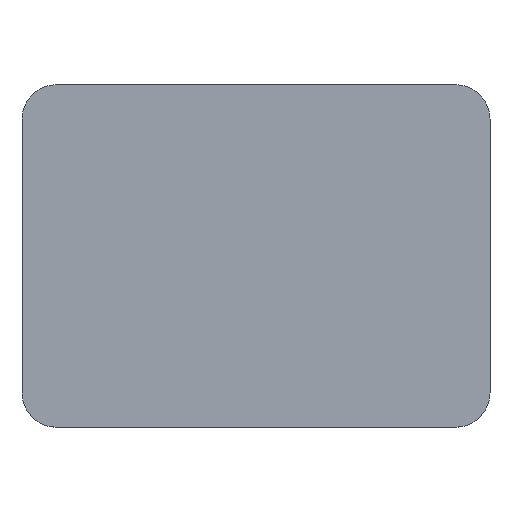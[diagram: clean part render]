
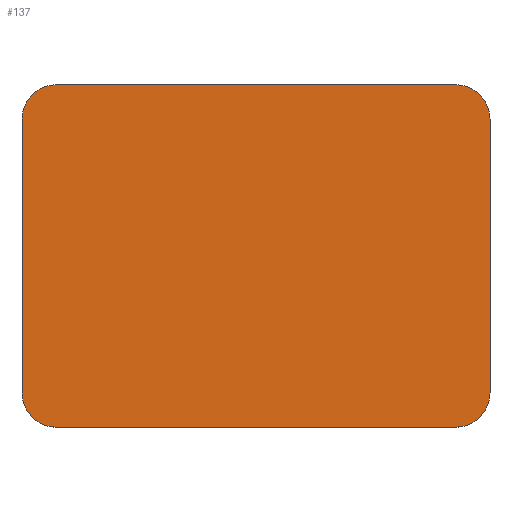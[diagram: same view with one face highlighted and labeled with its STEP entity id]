
A CAD part, top view. The second image highlights one B-rep face of the part: STEP entity #137.
In plain terms, the highlighted planar face has unit normal (0, 0, 1).
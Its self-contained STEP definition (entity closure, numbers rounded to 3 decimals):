
#21 = EDGE_CURVE('',#22,#24,#26,.T.);
#22 = VERTEX_POINT('',#23);
#23 = CARTESIAN_POINT('',(-41.,-24.,1.5));
#24 = VERTEX_POINT('',#25);
#25 = CARTESIAN_POINT('',(-41.,24.,1.5));
#26 = SURFACE_CURVE('',#27,(#31,#43),.PCURVE_S1.);
#27 = LINE('',#28,#29);
#28 = CARTESIAN_POINT('',(-41.,-30.,1.5));
#29 = VECTOR('',#30,1.);
#30 = DIRECTION('',(0.,1.,0.));
#31 = PCURVE('',#32,#37);
#32 = PLANE('',#33);
#33 = AXIS2_PLACEMENT_3D('',#34,#35,#36);
#34 = CARTESIAN_POINT('',(-41.,-30.,-1.5));
#35 = DIRECTION('',(1.,0.,0.));
#36 = DIRECTION('',(0.,0.,1.));
#37 = DEFINITIONAL_REPRESENTATION('',(#38),#42);
#38 = LINE('',#39,#40);
#39 = CARTESIAN_POINT('',(3.,0.));
#40 = VECTOR('',#41,1.);
#41 = DIRECTION('',(0.,-1.));
#42 = ( GEOMETRIC_REPRESENTATION_CONTEXT(2) 
PARAMETRIC_REPRESENTATION_CONTEXT() REPRESENTATION_CONTEXT('2D SPACE',''
  ) );
#43 = PCURVE('',#44,#49);
#44 = PLANE('',#45);
#45 = AXIS2_PLACEMENT_3D('',#46,#47,#48);
#46 = CARTESIAN_POINT('',(-41.,-30.,1.5));
#47 = DIRECTION('',(0.,0.,1.));
#48 = DIRECTION('',(1.,0.,0.));
#49 = DEFINITIONAL_REPRESENTATION('',(#50),#54);
#50 = LINE('',#51,#52);
#51 = CARTESIAN_POINT('',(0.,0.));
#52 = VECTOR('',#53,1.);
#53 = DIRECTION('',(0.,1.));
#54 = ( GEOMETRIC_REPRESENTATION_CONTEXT(2) 
PARAMETRIC_REPRESENTATION_CONTEXT() REPRESENTATION_CONTEXT('2D SPACE',''
  ) );
#72 = CYLINDRICAL_SURFACE('',#73,6.);
#73 = AXIS2_PLACEMENT_3D('',#74,#75,#76);
#74 = CARTESIAN_POINT('',(-35.,-24.,-1.5));
#75 = DIRECTION('',(0.,0.,1.));
#76 = DIRECTION('',(-1.,-0.,0.));
#126 = CYLINDRICAL_SURFACE('',#127,6.);
#127 = AXIS2_PLACEMENT_3D('',#128,#129,#130);
#128 = CARTESIAN_POINT('',(-35.,24.,-1.5));
#129 = DIRECTION('',(0.,0.,1.));
#130 = DIRECTION('',(-1.,-0.,0.));
#137 = ADVANCED_FACE('',(#138),#44,.T.);
#138 = FACE_BOUND('',#139,.T.);
#139 = EDGE_LOOP('',(#140,#141,#165,#193,#226,#254,#283,#311));
#140 = ORIENTED_EDGE('',*,*,#21,.F.);
#141 = ORIENTED_EDGE('',*,*,#142,.T.);
#142 = EDGE_CURVE('',#22,#143,#145,.T.);
#143 = VERTEX_POINT('',#144);
#144 = CARTESIAN_POINT('',(-35.,-30.,1.5));
#145 = SURFACE_CURVE('',#146,(#151,#158),.PCURVE_S1.);
#146 = CIRCLE('',#147,6.);
#147 = AXIS2_PLACEMENT_3D('',#148,#149,#150);
#148 = CARTESIAN_POINT('',(-35.,-24.,1.5));
#149 = DIRECTION('',(0.,0.,1.));
#150 = DIRECTION('',(0.,-1.,0.));
#151 = PCURVE('',#44,#152);
#152 = DEFINITIONAL_REPRESENTATION('',(#153),#157);
#153 = CIRCLE('',#154,6.);
#154 = AXIS2_PLACEMENT_2D('',#155,#156);
#155 = CARTESIAN_POINT('',(6.,6.));
#156 = DIRECTION('',(0.,-1.));
#157 = ( GEOMETRIC_REPRESENTATION_CONTEXT(2) 
PARAMETRIC_REPRESENTATION_CONTEXT() REPRESENTATION_CONTEXT('2D SPACE',''
  ) );
#158 = PCURVE('',#72,#159);
#159 = DEFINITIONAL_REPRESENTATION('',(#160),#164);
#160 = LINE('',#161,#162);
#161 = CARTESIAN_POINT('',(-4.712,3.));
#162 = VECTOR('',#163,1.);
#163 = DIRECTION('',(1.,0.));
#164 = ( GEOMETRIC_REPRESENTATION_CONTEXT(2) 
PARAMETRIC_REPRESENTATION_CONTEXT() REPRESENTATION_CONTEXT('2D SPACE',''
  ) );
#165 = ORIENTED_EDGE('',*,*,#166,.T.);
#166 = EDGE_CURVE('',#143,#167,#169,.T.);
#167 = VERTEX_POINT('',#168);
#168 = CARTESIAN_POINT('',(35.,-30.,1.5));
#169 = SURFACE_CURVE('',#170,(#174,#181),.PCURVE_S1.);
#170 = LINE('',#171,#172);
#171 = CARTESIAN_POINT('',(-41.,-30.,1.5));
#172 = VECTOR('',#173,1.);
#173 = DIRECTION('',(1.,0.,0.));
#174 = PCURVE('',#44,#175);
#175 = DEFINITIONAL_REPRESENTATION('',(#176),#180);
#176 = LINE('',#177,#178);
#177 = CARTESIAN_POINT('',(0.,0.));
#178 = VECTOR('',#179,1.);
#179 = DIRECTION('',(1.,0.));
#180 = ( GEOMETRIC_REPRESENTATION_CONTEXT(2) 
PARAMETRIC_REPRESENTATION_CONTEXT() REPRESENTATION_CONTEXT('2D SPACE',''
  ) );
#181 = PCURVE('',#182,#187);
#182 = PLANE('',#183);
#183 = AXIS2_PLACEMENT_3D('',#184,#185,#186);
#184 = CARTESIAN_POINT('',(-41.,-30.,-1.5));
#185 = DIRECTION('',(0.,1.,0.));
#186 = DIRECTION('',(0.,0.,1.));
#187 = DEFINITIONAL_REPRESENTATION('',(#188),#192);
#188 = LINE('',#189,#190);
#189 = CARTESIAN_POINT('',(3.,0.));
#190 = VECTOR('',#191,1.);
#191 = DIRECTION('',(0.,1.));
#192 = ( GEOMETRIC_REPRESENTATION_CONTEXT(2) 
PARAMETRIC_REPRESENTATION_CONTEXT() REPRESENTATION_CONTEXT('2D SPACE',''
  ) );
#193 = ORIENTED_EDGE('',*,*,#194,.F.);
#194 = EDGE_CURVE('',#195,#167,#197,.T.);
#195 = VERTEX_POINT('',#196);
#196 = CARTESIAN_POINT('',(41.,-24.,1.5));
#197 = SURFACE_CURVE('',#198,(#203,#214),.PCURVE_S1.);
#198 = CIRCLE('',#199,6.);
#199 = AXIS2_PLACEMENT_3D('',#200,#201,#202);
#200 = CARTESIAN_POINT('',(35.,-24.,1.5));
#201 = DIRECTION('',(-0.,-0.,-1.));
#202 = DIRECTION('',(0.,-1.,0.));
#203 = PCURVE('',#44,#204);
#204 = DEFINITIONAL_REPRESENTATION('',(#205),#213);
#205 = ( BOUNDED_CURVE() B_SPLINE_CURVE(2,(#206,#207,#208,#209,#210,#211
,#212),.UNSPECIFIED.,.T.,.F.) B_SPLINE_CURVE_WITH_KNOTS((1,2,2,2,2,1),(
    -2.094,0.,2.094,4.189,6.283,
8.378),.UNSPECIFIED.) CURVE() GEOMETRIC_REPRESENTATION_ITEM() 
RATIONAL_B_SPLINE_CURVE((1.,0.5,1.,0.5,1.,0.5,1.)) REPRESENTATION_ITEM(
  '') );
#206 = CARTESIAN_POINT('',(76.,0.));
#207 = CARTESIAN_POINT('',(65.608,0.));
#208 = CARTESIAN_POINT('',(70.804,9.));
#209 = CARTESIAN_POINT('',(76.,18.));
#210 = CARTESIAN_POINT('',(81.196,9.));
#211 = CARTESIAN_POINT('',(86.392,0.));
#212 = CARTESIAN_POINT('',(76.,0.));
#213 = ( GEOMETRIC_REPRESENTATION_CONTEXT(2) 
PARAMETRIC_REPRESENTATION_CONTEXT() REPRESENTATION_CONTEXT('2D SPACE',''
  ) );
#214 = PCURVE('',#215,#220);
#215 = CYLINDRICAL_SURFACE('',#216,6.);
#216 = AXIS2_PLACEMENT_3D('',#217,#218,#219);
#217 = CARTESIAN_POINT('',(35.,-24.,-1.5));
#218 = DIRECTION('',(0.,0.,1.));
#219 = DIRECTION('',(1.,0.,-0.));
#220 = DEFINITIONAL_REPRESENTATION('',(#221),#225);
#221 = LINE('',#222,#223);
#222 = CARTESIAN_POINT('',(4.712,3.));
#223 = VECTOR('',#224,1.);
#224 = DIRECTION('',(-1.,0.));
#225 = ( GEOMETRIC_REPRESENTATION_CONTEXT(2) 
PARAMETRIC_REPRESENTATION_CONTEXT() REPRESENTATION_CONTEXT('2D SPACE',''
  ) );
#226 = ORIENTED_EDGE('',*,*,#227,.T.);
#227 = EDGE_CURVE('',#195,#228,#230,.T.);
#228 = VERTEX_POINT('',#229);
#229 = CARTESIAN_POINT('',(41.,24.,1.5));
#230 = SURFACE_CURVE('',#231,(#235,#242),.PCURVE_S1.);
#231 = LINE('',#232,#233);
#232 = CARTESIAN_POINT('',(41.,-30.,1.5));
#233 = VECTOR('',#234,1.);
#234 = DIRECTION('',(0.,1.,0.));
#235 = PCURVE('',#44,#236);
#236 = DEFINITIONAL_REPRESENTATION('',(#237),#241);
#237 = LINE('',#238,#239);
#238 = CARTESIAN_POINT('',(82.,0.));
#239 = VECTOR('',#240,1.);
#240 = DIRECTION('',(0.,1.));
#241 = ( GEOMETRIC_REPRESENTATION_CONTEXT(2) 
PARAMETRIC_REPRESENTATION_CONTEXT() REPRESENTATION_CONTEXT('2D SPACE',''
  ) );
#242 = PCURVE('',#243,#248);
#243 = PLANE('',#244);
#244 = AXIS2_PLACEMENT_3D('',#245,#246,#247);
#245 = CARTESIAN_POINT('',(41.,-30.,-1.5));
#246 = DIRECTION('',(1.,0.,0.));
#247 = DIRECTION('',(0.,0.,1.));
#248 = DEFINITIONAL_REPRESENTATION('',(#249),#253);
#249 = LINE('',#250,#251);
#250 = CARTESIAN_POINT('',(3.,0.));
#251 = VECTOR('',#252,1.);
#252 = DIRECTION('',(0.,-1.));
#253 = ( GEOMETRIC_REPRESENTATION_CONTEXT(2) 
PARAMETRIC_REPRESENTATION_CONTEXT() REPRESENTATION_CONTEXT('2D SPACE',''
  ) );
#254 = ORIENTED_EDGE('',*,*,#255,.T.);
#255 = EDGE_CURVE('',#228,#256,#258,.T.);
#256 = VERTEX_POINT('',#257);
#257 = CARTESIAN_POINT('',(35.,30.,1.5));
#258 = SURFACE_CURVE('',#259,(#264,#271),.PCURVE_S1.);
#259 = CIRCLE('',#260,6.);
#260 = AXIS2_PLACEMENT_3D('',#261,#262,#263);
#261 = CARTESIAN_POINT('',(35.,24.,1.5));
#262 = DIRECTION('',(0.,0.,1.));
#263 = DIRECTION('',(0.,-1.,0.));
#264 = PCURVE('',#44,#265);
#265 = DEFINITIONAL_REPRESENTATION('',(#266),#270);
#266 = CIRCLE('',#267,6.);
#267 = AXIS2_PLACEMENT_2D('',#268,#269);
#268 = CARTESIAN_POINT('',(76.,54.));
#269 = DIRECTION('',(0.,-1.));
#270 = ( GEOMETRIC_REPRESENTATION_CONTEXT(2) 
PARAMETRIC_REPRESENTATION_CONTEXT() REPRESENTATION_CONTEXT('2D SPACE',''
  ) );
#271 = PCURVE('',#272,#277);
#272 = CYLINDRICAL_SURFACE('',#273,6.);
#273 = AXIS2_PLACEMENT_3D('',#274,#275,#276);
#274 = CARTESIAN_POINT('',(35.,24.,-1.5));
#275 = DIRECTION('',(0.,0.,1.));
#276 = DIRECTION('',(1.,0.,-0.));
#277 = DEFINITIONAL_REPRESENTATION('',(#278),#282);
#278 = LINE('',#279,#280);
#279 = CARTESIAN_POINT('',(-1.571,3.));
#280 = VECTOR('',#281,1.);
#281 = DIRECTION('',(1.,0.));
#282 = ( GEOMETRIC_REPRESENTATION_CONTEXT(2) 
PARAMETRIC_REPRESENTATION_CONTEXT() REPRESENTATION_CONTEXT('2D SPACE',''
  ) );
#283 = ORIENTED_EDGE('',*,*,#284,.F.);
#284 = EDGE_CURVE('',#285,#256,#287,.T.);
#285 = VERTEX_POINT('',#286);
#286 = CARTESIAN_POINT('',(-35.,30.,1.5));
#287 = SURFACE_CURVE('',#288,(#292,#299),.PCURVE_S1.);
#288 = LINE('',#289,#290);
#289 = CARTESIAN_POINT('',(-41.,30.,1.5));
#290 = VECTOR('',#291,1.);
#291 = DIRECTION('',(1.,0.,0.));
#292 = PCURVE('',#44,#293);
#293 = DEFINITIONAL_REPRESENTATION('',(#294),#298);
#294 = LINE('',#295,#296);
#295 = CARTESIAN_POINT('',(0.,60.));
#296 = VECTOR('',#297,1.);
#297 = DIRECTION('',(1.,0.));
#298 = ( GEOMETRIC_REPRESENTATION_CONTEXT(2) 
PARAMETRIC_REPRESENTATION_CONTEXT() REPRESENTATION_CONTEXT('2D SPACE',''
  ) );
#299 = PCURVE('',#300,#305);
#300 = PLANE('',#301);
#301 = AXIS2_PLACEMENT_3D('',#302,#303,#304);
#302 = CARTESIAN_POINT('',(-41.,30.,-1.5));
#303 = DIRECTION('',(0.,1.,0.));
#304 = DIRECTION('',(0.,0.,1.));
#305 = DEFINITIONAL_REPRESENTATION('',(#306),#310);
#306 = LINE('',#307,#308);
#307 = CARTESIAN_POINT('',(3.,0.));
#308 = VECTOR('',#309,1.);
#309 = DIRECTION('',(0.,1.));
#310 = ( GEOMETRIC_REPRESENTATION_CONTEXT(2) 
PARAMETRIC_REPRESENTATION_CONTEXT() REPRESENTATION_CONTEXT('2D SPACE',''
  ) );
#311 = ORIENTED_EDGE('',*,*,#312,.F.);
#312 = EDGE_CURVE('',#24,#285,#313,.T.);
#313 = SURFACE_CURVE('',#314,(#319,#330),.PCURVE_S1.);
#314 = CIRCLE('',#315,6.);
#315 = AXIS2_PLACEMENT_3D('',#316,#317,#318);
#316 = CARTESIAN_POINT('',(-35.,24.,1.5));
#317 = DIRECTION('',(-0.,-0.,-1.));
#318 = DIRECTION('',(0.,-1.,0.));
#319 = PCURVE('',#44,#320);
#320 = DEFINITIONAL_REPRESENTATION('',(#321),#329);
#321 = ( BOUNDED_CURVE() B_SPLINE_CURVE(2,(#322,#323,#324,#325,#326,#327
,#328),.UNSPECIFIED.,.T.,.F.) B_SPLINE_CURVE_WITH_KNOTS((1,2,2,2,2,1),(
    -2.094,0.,2.094,4.189,6.283,
8.378),.UNSPECIFIED.) CURVE() GEOMETRIC_REPRESENTATION_ITEM() 
RATIONAL_B_SPLINE_CURVE((1.,0.5,1.,0.5,1.,0.5,1.)) REPRESENTATION_ITEM(
  '') );
#322 = CARTESIAN_POINT('',(6.,48.));
#323 = CARTESIAN_POINT('',(-4.392,48.));
#324 = CARTESIAN_POINT('',(0.804,57.));
#325 = CARTESIAN_POINT('',(6.,66.));
#326 = CARTESIAN_POINT('',(11.196,57.));
#327 = CARTESIAN_POINT('',(16.392,48.));
#328 = CARTESIAN_POINT('',(6.,48.));
#329 = ( GEOMETRIC_REPRESENTATION_CONTEXT(2) 
PARAMETRIC_REPRESENTATION_CONTEXT() REPRESENTATION_CONTEXT('2D SPACE',''
  ) );
#330 = PCURVE('',#126,#331);
#331 = DEFINITIONAL_REPRESENTATION('',(#332),#336);
#332 = LINE('',#333,#334);
#333 = CARTESIAN_POINT('',(1.571,3.));
#334 = VECTOR('',#335,1.);
#335 = DIRECTION('',(-1.,0.));
#336 = ( GEOMETRIC_REPRESENTATION_CONTEXT(2) 
PARAMETRIC_REPRESENTATION_CONTEXT() REPRESENTATION_CONTEXT('2D SPACE',''
  ) );
